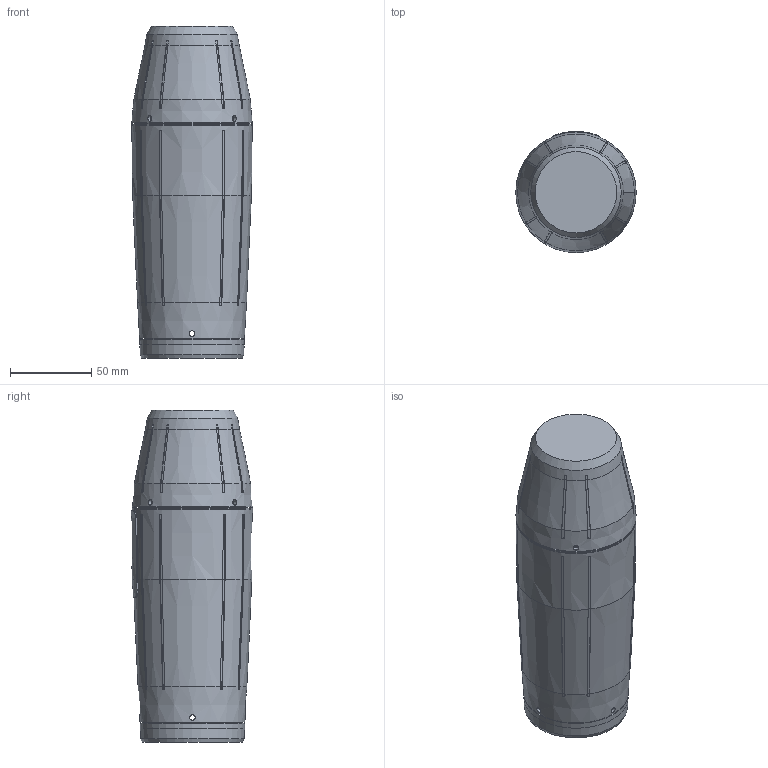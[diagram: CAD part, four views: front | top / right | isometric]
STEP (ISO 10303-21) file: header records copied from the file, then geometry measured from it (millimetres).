
FILE_DESCRIPTION(('FreeCAD Model'),'2;1');
FILE_NAME('Open CASCADE Shape Model','2026-09-19T17:18:18',('FreeCAD'),( 'FreeCAD'),'Open CASCADE STEP processor 7.8','FreeCAD','Unknown');
FILE_SCHEMA(('AUTOMOTIVE_DESIGN { 1 0 10303 214 1 1 1 1 }'));
Length unit declared in the file: millimetre
Products named in the file (1): Open CASCADE STEP translator 7.8 13
Bounding box: 74 x 74.56 x 204 mm (x, y, z)
Volume: 359491.9 mm3; surface area: 192351.6 mm2
Topology: 19 solids, 23 shells, 470 faces, 1265 edges, 863 vertices
Faces by surface type: plane 250, cylinder 131, cone 89
Full cylindrical faces by diameter (mm): 2.2 x8, 2.6 x8, 2.8 x16, 3.2 x4, 3.4 x28, 4 x4, 4.4 x4, 5 x8, 6.4 x4, 12 x1, 46 x1, 57 x2, 61.3 x1, 66.9 x1, 73.982 x1
Entity records: 21131 total; most frequent: CARTESIAN_POINT 8770, DIRECTION 2549, ORIENTED_EDGE 2530, EDGE_CURVE 1265, AXIS2_PLACEMENT_3D 930, VERTEX_POINT 863, LINE 689, VECTOR 689
